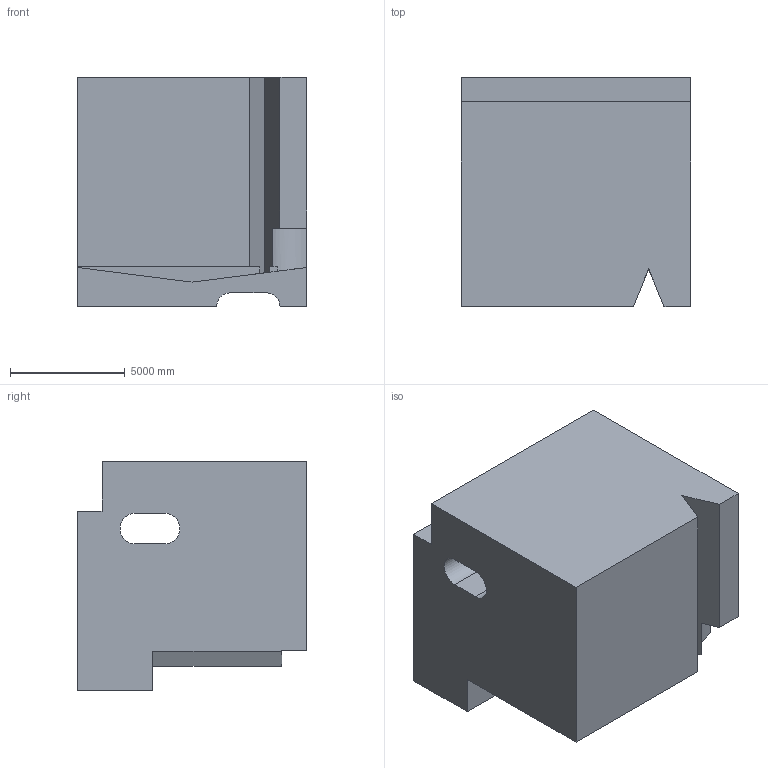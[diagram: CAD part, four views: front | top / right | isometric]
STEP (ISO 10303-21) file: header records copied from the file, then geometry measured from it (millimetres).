
FILE_DESCRIPTION (( 'STEP AP203' ), '1' );
FILE_NAME ('344.STEP', '2022-09-07T13:02:24', ( 'user' ), ( '' ), 'SwSTEP 2.0', 'SolidWorks 2021', '' );
FILE_SCHEMA (( 'CONFIG_CONTROL_DESIGN' ));
Length unit declared in the file: centimetre
Products named in the file (1): 344
Bounding box: 10000 x 10000 x 10000 mm (x, y, z)
Volume: 825864668438 mm3; surface area: 656112386.2 mm2
Topology: 1 solids, 1 shells, 31 faces, 84 edges, 56 vertices
Faces by surface type: plane 24, cylinder 7
Entity records: 1051 total; most frequent: CARTESIAN_POINT 181, ORIENTED_EDGE 168, DIRECTION 157, EDGE_CURVE 84, LINE 69, VECTOR 69, VERTEX_POINT 56, AXIS2_PLACEMENT_3D 44
